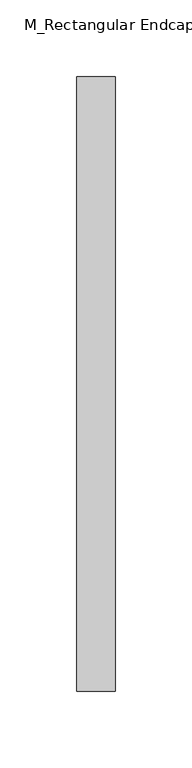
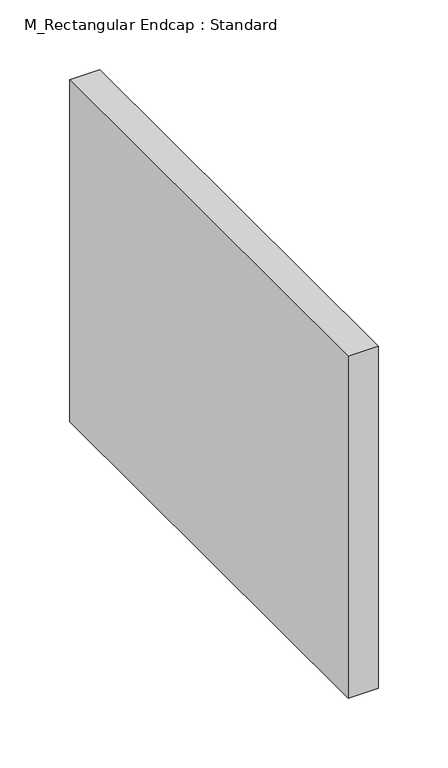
"""IFC4 building model written with IfcOpenShell, lengths in millimetres: duct fitting geometry, M_Rectangular Endcap : Standard."""

from ifc_helpers import new_model, si_unit, frame, origin, place, context, project, spatial, polyline, outline, extrude, source, transform, mapped, element, save


def m_rectangular_endcap_standard_0945e9d3(model_context):
    return source(origin(), model_context, "Body", "SweptSolid", [
        extrude(outline(polyline([(0.0, -200.0), (0.0, 200.0), (25.0, 200.0), (25.0, -200.0), (0.0, -200.0)])), frame((0.0, 0.0, -150.0), z_axis=(0.0, 0.0, 1.0), x_axis=(1.0, 0.0, 0.0)), (0.0, 0.0, 1.0), 300.0),
    ])


if __name__ == "__main__":
    model = new_model("IFC4")
    model_context = context("Model", 3, world=origin())
    ifc_project = project(units=[si_unit("LENGTHUNIT", "METRE", prefix="MILLI")], contexts=[model_context])
    site = spatial("IfcSite", under=ifc_project)
    building = spatial("IfcBuilding", under=site)
    placement = place(None, origin())
    m_rectangular_endcap_standard_shape = m_rectangular_endcap_standard_0945e9d3(model_context)
    element("IfcDuctFitting", 1, ObjectType="M_Rectangular Endcap : Standard", at=placement, inside=building, context=model_context, shape_type="MappedRepresentation", body=[
        mapped(m_rectangular_endcap_standard_shape, transform((0.0, 0.0, 0.0), x_axis=(1.0, 0.0, 0.0), y_axis=(0.0, 1.0, 0.0), z_axis=(0.0, 0.0, 1.0))),
    ])
    save(model, "model.ifc")
